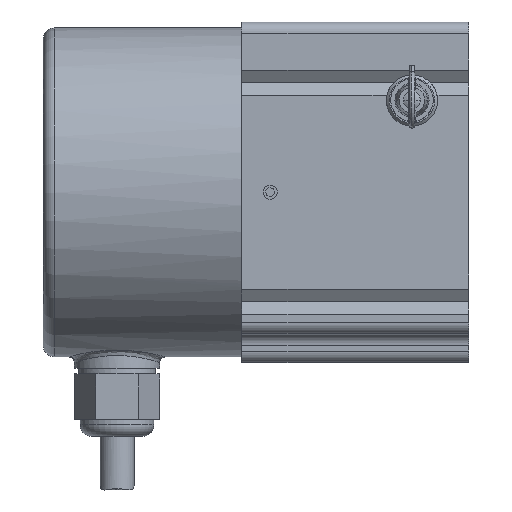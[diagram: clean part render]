
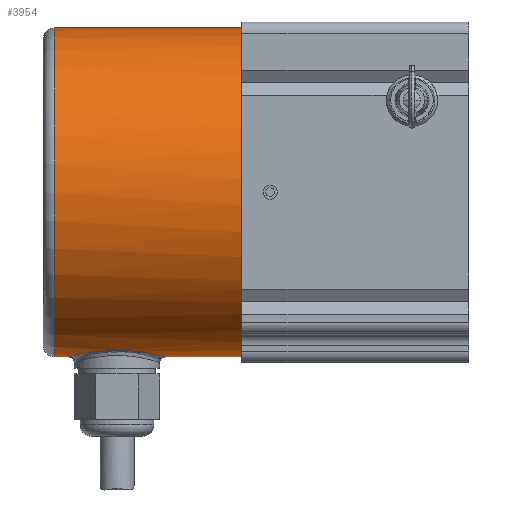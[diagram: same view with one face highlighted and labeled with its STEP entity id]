
A CAD part, top view. The second image highlights one B-rep face of the part: STEP entity #3954.
In plain terms, the highlighted cylindrical face has radius 29 mm (diameter 58 mm), a partial arc.
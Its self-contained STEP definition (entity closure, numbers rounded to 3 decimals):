
#10=CARTESIAN_POINT('',(-40.,0.,0.));
#11=DIRECTION('',(-1.,0.,0.));
#12=DIRECTION('',(0.,-1.,0.));
#13=AXIS2_PLACEMENT_3D('',#10,#11,#12);
#20=CARTESIAN_POINT('',(-40.,0.,0.));
#21=DIRECTION('',(-1.,0.,0.));
#22=DIRECTION('',(0.,-0.805,0.593));
#23=AXIS2_PLACEMENT_3D('',#20,#21,#22);
#56=CARTESIAN_POINT('',(-40.,0.,0.));
#57=DIRECTION('',(-1.,0.,0.));
#58=DIRECTION('',(0.,-0.537,0.843));
#59=AXIS2_PLACEMENT_3D('',#56,#57,#58);
#61=CARTESIAN_POINT('',(-40.,0.,0.));
#62=DIRECTION('',(-1.,0.,0.));
#63=DIRECTION('',(0.,0.593,0.805));
#64=AXIS2_PLACEMENT_3D('',#61,#62,#63);
#161=DIRECTION('',(1.,0.,0.));
#162=VECTOR('',#161,33.);
#163=CARTESIAN_POINT('',(-73.,29.,0.));
#164=LINE('',#163,#162);
#165=DIRECTION('',(1.,0.,0.));
#166=VECTOR('',#165,2.5);
#167=CARTESIAN_POINT('',(-73.,-29.,0.));
#168=LINE('',#167,#166);
#169=DIRECTION('',(1.,0.,0.));
#170=VECTOR('',#169,13.5);
#171=CARTESIAN_POINT('',(-53.5,-29.,0.));
#172=LINE('',#171,#170);
#208=CARTESIAN_POINT('',(-73.,0.,0.));
#209=DIRECTION('',(1.,0.,0.));
#210=DIRECTION('',(0.,1.,0.));
#211=AXIS2_PLACEMENT_3D('',#208,#209,#210);
#213=CARTESIAN_POINT('',(-73.,0.,0.));
#214=DIRECTION('',(1.,0.,0.));
#215=DIRECTION('',(0.,1.,0.005));
#216=AXIS2_PLACEMENT_3D('',#213,#214,#215);
#265=CARTESIAN_POINT('',(-70.5,-29.,0.));
#266=CARTESIAN_POINT('',(-70.5,-29.,
0.257));
#267=CARTESIAN_POINT('',(-70.475,-28.993,
0.771));
#268=CARTESIAN_POINT('',(-70.361,-28.962,1.546));
#269=CARTESIAN_POINT('',(-70.17,-28.911,2.312));
#270=CARTESIAN_POINT('',(-69.902,-28.841,3.062));
#271=CARTESIAN_POINT('',(-69.557,-28.754,3.789));
#272=CARTESIAN_POINT('',(-69.137,-28.654,4.487));
#273=CARTESIAN_POINT('',(-68.643,-28.542,5.148));
#274=CARTESIAN_POINT('',(-68.078,-28.424,5.763));
#275=CARTESIAN_POINT('',(-67.451,-28.304,6.323));
#276=CARTESIAN_POINT('',(-66.769,-28.188,6.818));
#277=CARTESIAN_POINT('',(-66.039,-28.081,7.246));
#278=CARTESIAN_POINT('',(-65.268,-27.987,7.6));
#279=CARTESIAN_POINT('',(-64.47,-27.91,7.876));
#280=CARTESIAN_POINT('',(-63.654,-27.854,8.073));
#281=CARTESIAN_POINT('',(-62.824,-27.819,8.191));
#282=CARTESIAN_POINT('',(-61.987,-27.808,8.23));
#283=CARTESIAN_POINT('',(-61.148,-27.82,8.189));
#284=CARTESIAN_POINT('',(-60.317,-27.855,8.068));
#285=CARTESIAN_POINT('',(-59.5,-27.913,7.868));
#286=CARTESIAN_POINT('',(-58.706,-27.99,7.589));
#287=CARTESIAN_POINT('',(-57.939,-28.084,7.234));
#288=CARTESIAN_POINT('',(-57.209,-28.192,6.804));
#289=CARTESIAN_POINT('',(-56.527,-28.308,6.305));
#290=CARTESIAN_POINT('',(-55.902,-28.428,5.744));
#291=CARTESIAN_POINT('',(-55.342,-28.545,5.13));
#292=CARTESIAN_POINT('',(-54.852,-28.656,4.471));
#293=CARTESIAN_POINT('',(-54.434,-28.757,3.773));
#294=CARTESIAN_POINT('',(-54.09,-28.843,3.044));
#295=CARTESIAN_POINT('',(-53.824,-28.913,2.292));
#296=CARTESIAN_POINT('',(-53.635,-28.963,1.528));
#297=CARTESIAN_POINT('',(-53.524,-28.993,
0.759));
#298=CARTESIAN_POINT('',(-53.5,-29.,
0.253));
#299=CARTESIAN_POINT('',(-53.5,-29.,0.));
#761=CARTESIAN_POINT('',(-40.,0.,0.));
#762=DIRECTION('',(-1.,0.,0.));
#763=DIRECTION('',(0.,0.537,0.843));
#764=AXIS2_PLACEMENT_3D('',#761,#762,#763);
#766=CARTESIAN_POINT('',(-40.,0.,0.));
#767=DIRECTION('',(-1.,0.,0.));
#768=DIRECTION('',(0.,-0.593,0.805));
#769=AXIS2_PLACEMENT_3D('',#766,#767,#768);
#771=CARTESIAN_POINT('',(-40.,0.,0.));
#772=DIRECTION('',(-1.,0.,0.));
#773=DIRECTION('',(0.,-0.843,0.537));
#774=AXIS2_PLACEMENT_3D('',#771,#772,#773);
#3504=CARTESIAN_POINT('',(-40.,17.194,23.353));
#3506=VERTEX_POINT('',#3504);
#3508=CARTESIAN_POINT('',(-40.,15.586,24.456));
#3509=VERTEX_POINT('',#3508);
#3510=CARTESIAN_POINT('',(-40.,-29.,0.));
#3511=CARTESIAN_POINT('',(-40.,-24.456,15.586));
#3512=VERTEX_POINT('',#3510);
#3513=VERTEX_POINT('',#3511);
#3514=CARTESIAN_POINT('',(-40.,-23.353,17.194));
#3515=CARTESIAN_POINT('',(-40.,-17.194,23.353));
#3516=VERTEX_POINT('',#3514);
#3517=VERTEX_POINT('',#3515);
#3518=CARTESIAN_POINT('',(-40.,-15.586,24.456));
#3519=VERTEX_POINT('',#3518);
#3520=CARTESIAN_POINT('',(-40.,29.,0.));
#3521=VERTEX_POINT('',#3520);
#3550=CARTESIAN_POINT('',(-73.,29.,0.));
#3551=VERTEX_POINT('',#3550);
#3552=CARTESIAN_POINT('',(-53.5,-29.,0.));
#3553=VERTEX_POINT('',#3552);
#3554=VERTEX_POINT('',#265);
#3555=CARTESIAN_POINT('',(-73.,-29.,0.));
#3556=VERTEX_POINT('',#3555);
#3557=CARTESIAN_POINT('',(-73.,29.,0.154));
#3558=VERTEX_POINT('',#3557);
#3925=CARTESIAN_POINT('',(-40.,0.,0.));
#3926=DIRECTION('',(-1.,0.,0.));
#3927=DIRECTION('',(0.,-1.,0.));
#3928=AXIS2_PLACEMENT_3D('',#3925,#3926,#3927);
#3929=CYLINDRICAL_SURFACE('',#3928,29.);
#3930=ORIENTED_EDGE('',*,*,#3691,.F.);
#3932=ORIENTED_EDGE('',*,*,#3931,.F.);
#3934=ORIENTED_EDGE('',*,*,#3933,.F.);
#3936=ORIENTED_EDGE('',*,*,#3935,.F.);
#3938=ORIENTED_EDGE('',*,*,#3937,.F.);
#3940=ORIENTED_EDGE('',*,*,#3939,.F.);
#3942=ORIENTED_EDGE('',*,*,#3941,.T.);
#3943=ORIENTED_EDGE('',*,*,#3785,.F.);
#3945=ORIENTED_EDGE('',*,*,#3944,.F.);
#3946=ORIENTED_EDGE('',*,*,#3761,.F.);
#3948=ORIENTED_EDGE('',*,*,#3947,.F.);
#3949=ORIENTED_EDGE('',*,*,#3717,.F.);
#3951=ORIENTED_EDGE('',*,*,#3950,.F.);
#3952=EDGE_LOOP('',(#3930,#3932,#3934,#3936,#3938,#3940,#3942,#3943,#3945,#3946,
#3948,#3949,#3951));
#3953=FACE_OUTER_BOUND('',#3952,.F.);
#3954=ADVANCED_FACE('',(#3953),#3929,.T.);
#14=CIRCLE('',#13,29.);
#24=CIRCLE('',#23,29.);
#60=CIRCLE('',#59,29.);
#65=CIRCLE('',#64,29.);
#212=CIRCLE('',#211,29.);
#217=CIRCLE('',#216,29.);
#300=B_SPLINE_CURVE_WITH_KNOTS('',3,(#265,#266,#267,#268,#269,#270,#271,#272,
#273,#274,#275,#276,#277,#278,#279,#280,#281,#282,#283,#284,#285,#286,#287,#288,
#289,#290,#291,#292,#293,#294,#295,#296,#297,#298,#299),.UNSPECIFIED.,.F.,.F.,
(4,1,1,1,1,1,1,1,1,1,1,1,1,1,1,1,1,1,1,1,1,1,1,1,1,1,1,1,1,1,1,1,4),(0.,
0.031,0.063,0.094,0.125,0.156,0.188,0.219,0.25,0.281,
0.313,0.344,0.375,0.406,0.438,0.469,0.5,0.531,
0.563,0.594,0.625,0.656,0.688,0.719,0.75,0.781,
0.813,0.844,0.875,0.906,0.938,0.969,1.),.UNSPECIFIED.);
#765=CIRCLE('',#764,29.);
#770=CIRCLE('',#769,29.);
#775=CIRCLE('',#774,29.);
#3691=EDGE_CURVE('',#3512,#3513,#14,.T.);
#3717=EDGE_CURVE('',#3516,#3517,#24,.T.);
#3761=EDGE_CURVE('',#3519,#3509,#60,.T.);
#3785=EDGE_CURVE('',#3506,#3521,#65,.T.);
#3931=EDGE_CURVE('',#3553,#3512,#172,.T.);
#3933=EDGE_CURVE('',#3554,#3553,#300,.T.);
#3935=EDGE_CURVE('',#3556,#3554,#168,.T.);
#3937=EDGE_CURVE('',#3558,#3556,#217,.T.);
#3939=EDGE_CURVE('',#3551,#3558,#212,.T.);
#3941=EDGE_CURVE('',#3551,#3521,#164,.T.);
#3944=EDGE_CURVE('',#3509,#3506,#765,.T.);
#3947=EDGE_CURVE('',#3517,#3519,#770,.T.);
#3950=EDGE_CURVE('',#3513,#3516,#775,.T.);
